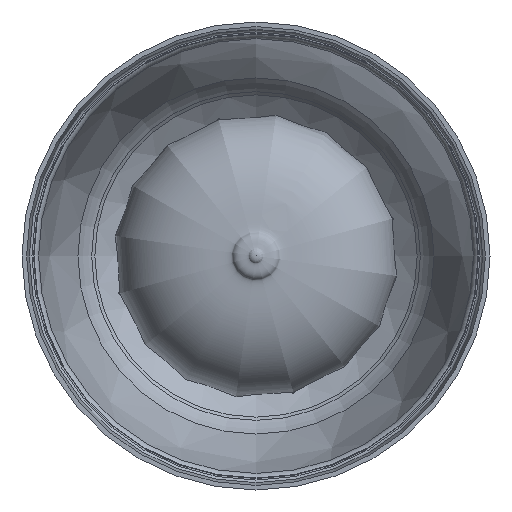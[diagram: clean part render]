
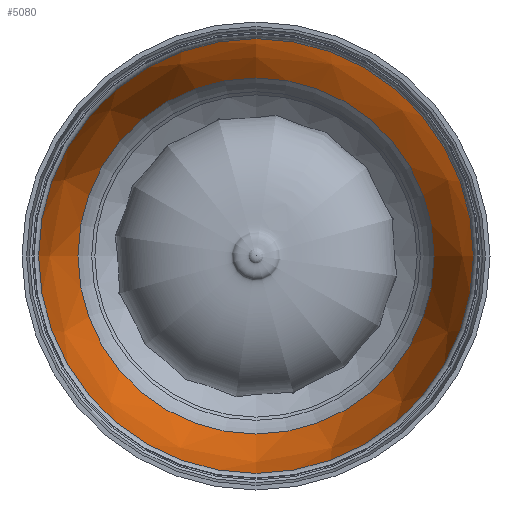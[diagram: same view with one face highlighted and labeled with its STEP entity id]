
A CAD part, front view. The second image highlights one B-rep face of the part: STEP entity #5080.
In plain terms, the highlighted free-form (B-spline) face has degree [2, 2] with [3, 9] control points.
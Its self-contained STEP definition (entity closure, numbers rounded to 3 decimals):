
#1582=(
BOUNDED_SURFACE()
B_SPLINE_SURFACE(2,2,((#8361,#8362,#8363,#8364,#8365,#8366,#8367,#8368,
#8369),(#8370,#8371,#8372,#8373,#8374,#8375,#8376,#8377,#8378),(#8379,#8380,
#8381,#8382,#8383,#8384,#8385,#8386,#8387)),.UNSPECIFIED.,.F.,.T.,.F.)
B_SPLINE_SURFACE_WITH_KNOTS((3,3),(3,2,2,2,3),(-0.47,-0.027),
(-3.142,-1.571,0.,1.571,3.142),
 .UNSPECIFIED.)
GEOMETRIC_REPRESENTATION_ITEM()
RATIONAL_B_SPLINE_SURFACE(((1.,0.707,1.,0.707,1.,
0.707,1.,0.707,1.),(0.976,0.69,
0.976,0.69,0.976,0.69,0.976,
0.69,0.976),(1.,0.707,1.,0.707,
1.,0.707,1.,0.707,1.)))
REPRESENTATION_ITEM('')
SURFACE()
);
#1800=FACE_OUTER_BOUND('',#2035,.T.);
#2035=EDGE_LOOP('',(#3936,#3937,#3938,#3939,#3940,#3941));
#2659=CIRCLE('',#5580,38.495);
#2660=CIRCLE('',#5581,38.495);
#2661=CIRCLE('',#5582,78.724);
#2662=CIRCLE('',#5583,47.);
#2663=CIRCLE('',#5584,47.);
#2954=VERTEX_POINT('',#8356);
#2955=VERTEX_POINT('',#8358);
#2956=VERTEX_POINT('',#8388);
#2957=VERTEX_POINT('',#8390);
#3345=EDGE_CURVE('',#2954,#2955,#2659,.T.);
#3346=EDGE_CURVE('',#2955,#2954,#2660,.T.);
#3347=EDGE_CURVE('',#2954,#2956,#2661,.T.);
#3348=EDGE_CURVE('',#2956,#2957,#2662,.F.);
#3349=EDGE_CURVE('',#2957,#2956,#2663,.F.);
#3936=ORIENTED_EDGE('',*,*,#3346,.F.);
#3937=ORIENTED_EDGE('',*,*,#3345,.F.);
#3938=ORIENTED_EDGE('',*,*,#3347,.T.);
#3939=ORIENTED_EDGE('',*,*,#3348,.T.);
#3940=ORIENTED_EDGE('',*,*,#3349,.T.);
#3941=ORIENTED_EDGE('',*,*,#3347,.F.);
#5080=ADVANCED_FACE('',(#1800),#1582,.T.);
#5580=AXIS2_PLACEMENT_3D('',#8359,#6478,#6479);
#5581=AXIS2_PLACEMENT_3D('',#8360,#6480,#6481);
#5582=AXIS2_PLACEMENT_3D('',#8389,#6482,#6483);
#5583=AXIS2_PLACEMENT_3D('',#8391,#6484,#6485);
#5584=AXIS2_PLACEMENT_3D('',#8392,#6486,#6487);
#6478=DIRECTION('center_axis',(0.,-1.,0.));
#6479=DIRECTION('ref_axis',(1.,0.,0.));
#6480=DIRECTION('center_axis',(0.,-1.,0.));
#6481=DIRECTION('ref_axis',(1.,0.,0.));
#6482=DIRECTION('center_axis',(1.,0.,0.));
#6483=DIRECTION('ref_axis',(0.,0.,1.));
#6484=DIRECTION('center_axis',(0.,1.,0.));
#6485=DIRECTION('ref_axis',(1.,0.,0.));
#6486=DIRECTION('center_axis',(0.,1.,0.));
#6487=DIRECTION('ref_axis',(1.,0.,0.));
#8356=CARTESIAN_POINT('',(0.,58.823,38.495));
#8358=CARTESIAN_POINT('',(38.495,58.823,0.));
#8359=CARTESIAN_POINT('Origin',(0.,58.823,0.));
#8360=CARTESIAN_POINT('Origin',(0.,58.823,0.));
#8361=CARTESIAN_POINT('Ctrl Pts',(0.,58.823,38.495));
#8362=CARTESIAN_POINT('Ctrl Pts',(-38.495,58.823,38.495));
#8363=CARTESIAN_POINT('Ctrl Pts',(-38.495,58.823,0.));
#8364=CARTESIAN_POINT('Ctrl Pts',(-38.495,58.823,-38.495));
#8365=CARTESIAN_POINT('Ctrl Pts',(0.,58.823,-38.495));
#8366=CARTESIAN_POINT('Ctrl Pts',(38.495,58.823,-38.495));
#8367=CARTESIAN_POINT('Ctrl Pts',(38.495,58.823,0.));
#8368=CARTESIAN_POINT('Ctrl Pts',(38.495,58.823,38.495));
#8369=CARTESIAN_POINT('Ctrl Pts',(0.,58.823,38.495));
#8370=CARTESIAN_POINT('Ctrl Pts',(0.,43.035,46.514));
#8371=CARTESIAN_POINT('Ctrl Pts',(-46.514,43.035,46.514));
#8372=CARTESIAN_POINT('Ctrl Pts',(-46.514,43.035,0.));
#8373=CARTESIAN_POINT('Ctrl Pts',(-46.514,43.035,-46.514));
#8374=CARTESIAN_POINT('Ctrl Pts',(0.,43.035,-46.514));
#8375=CARTESIAN_POINT('Ctrl Pts',(46.514,43.035,-46.514));
#8376=CARTESIAN_POINT('Ctrl Pts',(46.514,43.035,0.));
#8377=CARTESIAN_POINT('Ctrl Pts',(46.514,43.035,46.514));
#8378=CARTESIAN_POINT('Ctrl Pts',(0.,43.035,46.514));
#8379=CARTESIAN_POINT('Ctrl Pts',(0.,25.334,47.));
#8380=CARTESIAN_POINT('Ctrl Pts',(-47.,25.334,47.));
#8381=CARTESIAN_POINT('Ctrl Pts',(-47.,25.334,0.));
#8382=CARTESIAN_POINT('Ctrl Pts',(-47.,25.334,-47.));
#8383=CARTESIAN_POINT('Ctrl Pts',(0.,25.334,-47.));
#8384=CARTESIAN_POINT('Ctrl Pts',(47.,25.334,-47.));
#8385=CARTESIAN_POINT('Ctrl Pts',(47.,25.334,0.));
#8386=CARTESIAN_POINT('Ctrl Pts',(47.,25.334,47.));
#8387=CARTESIAN_POINT('Ctrl Pts',(0.,25.334,47.));
#8388=CARTESIAN_POINT('',(0.,25.334,47.));
#8389=CARTESIAN_POINT('Origin',(0.,23.173,-31.694));
#8390=CARTESIAN_POINT('',(-47.,25.334,0.));
#8391=CARTESIAN_POINT('Origin',(0.,25.334,0.));
#8392=CARTESIAN_POINT('Origin',(0.,25.334,0.));
